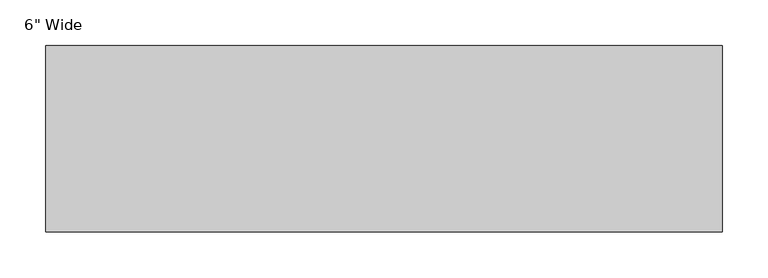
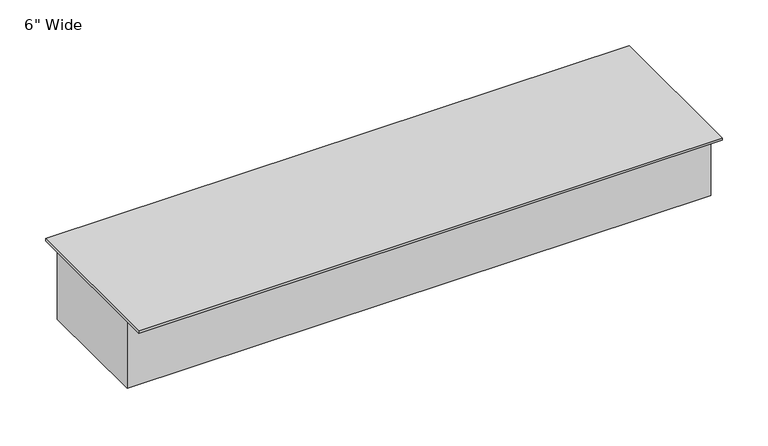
"""IFC4 building model written with IfcOpenShell, lengths in millimetres: proxy geometry."""

from ifc_helpers import new_model, si_unit, frame, origin, place, context, project, spatial, polyline, outline, extrude, source, transform, mapped, element, save


def proxy_b54416c3(model_context):
    return source(origin(), model_context, "Body", "SweptSolid", [
        extrude(outline(polyline([(736.6, 101.6), (736.6, -101.6), (0.0, -101.6), (0.0, 101.6), (736.6, 101.6)])), frame((0.0, 0.0, -3.175), z_axis=(0.0, 0.0, 1.0), x_axis=(1.0, 0.0, 0.0)), (0.0, 0.0, 1.0), 3.175),
        extrude(outline(polyline([(736.6, 76.2), (736.6, -76.2), (0.0, -76.2), (0.0, 76.2), (736.6, 76.2)])), frame((0.0, 0.0, -92.075), z_axis=(0.0, 0.0, 1.0), x_axis=(1.0, 0.0, 0.0)), (0.0, 0.0, 1.0), 88.9),
    ])


if __name__ == "__main__":
    model = new_model("IFC4")
    model_context = context("Model", 3, world=origin())
    ifc_project = project(units=[si_unit("LENGTHUNIT", "METRE", prefix="MILLI")], contexts=[model_context])
    site = spatial("IfcSite", under=ifc_project)
    building = spatial("IfcBuilding", under=site)
    placement = place(None, origin())
    proxy_shape = proxy_b54416c3(model_context)
    element("IfcBuildingElementProxy", 1, Name="Duct-Wallduct-Wiremold : 6\" Wide", ObjectType="Duct-Wallduct-Wiremold : 6\" Wide", at=placement, inside=building, context=model_context, shape_type="MappedRepresentation", body=[
        mapped(proxy_shape, transform((0.0, 0.0, 0.0), x_axis=(1.0, 0.0, 0.0), y_axis=(0.0, 1.0, 0.0), z_axis=(0.0, 0.0, 1.0))),
    ])
    save(model, "model.ifc")
